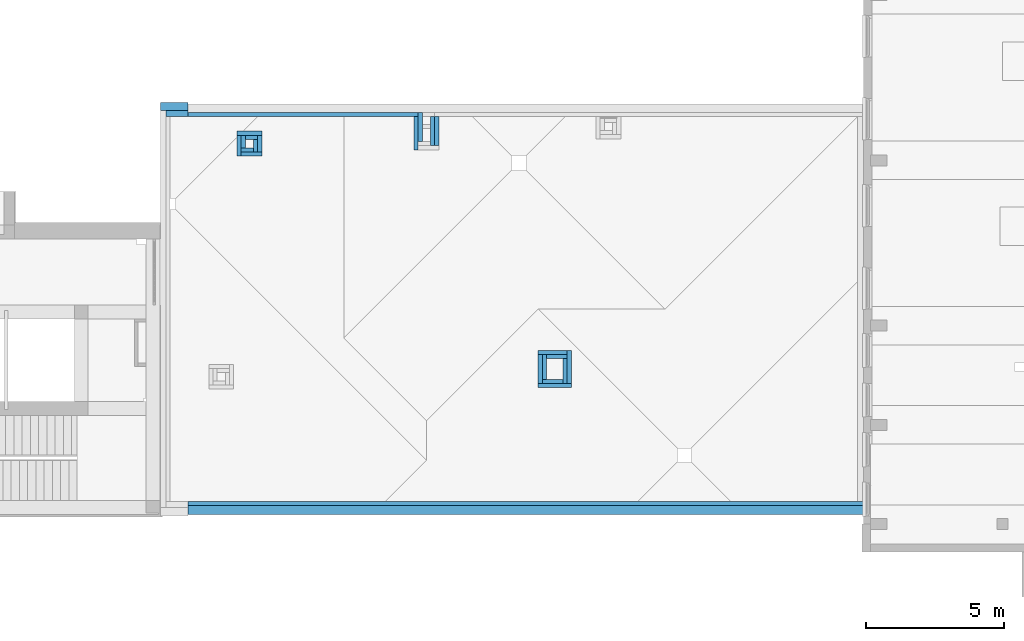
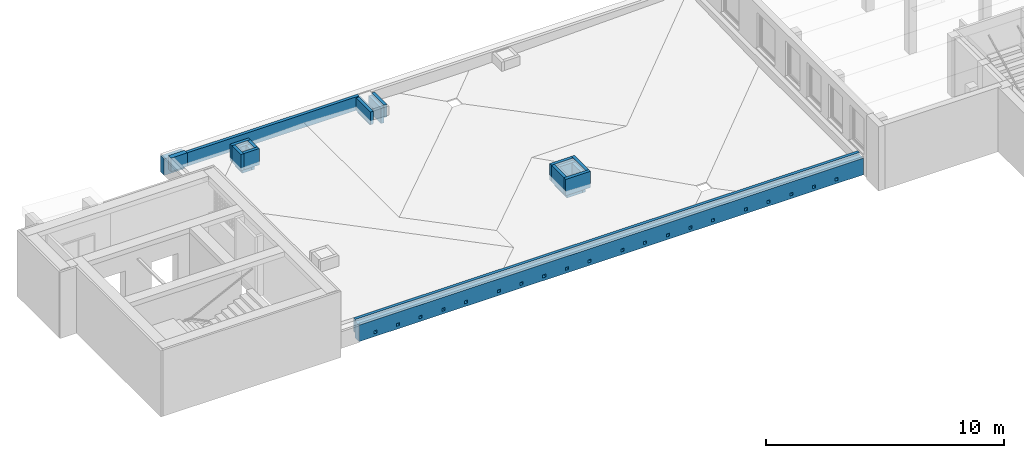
# One storey, part 5 of 27: 25 walls, 20 openings.
"""IFC4 building model written with IfcOpenShell, lengths in metres."""

from ifc_helpers import new_model, entity, si_unit, converted_unit, derived_unit, frame, frame_2d, origin, origin_with_axes, place, context, subcontext, project, spatial, polyline, rectangle, outline, extrude, material, layer, layer_set, layer_usage, element, save


model = new_model("IFC4")

# Units and contexts
model_context = context("Model", 3, precision=1e-05, world=origin())
body_context = subcontext(model_context, "Body", "Model", "MODEL_VIEW")
ifc_project = project(units=[si_unit("LENGTHUNIT", "METRE"), si_unit("AREAUNIT", "SQUARE_METRE"), si_unit("VOLUMEUNIT", "CUBIC_METRE"), si_unit("MASSUNIT", "GRAM", prefix="KILO"), converted_unit("PLANEANGLEUNIT", "DEGREE", entity("IfcPlaneAngleMeasure", 0.0174532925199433), si_unit("PLANEANGLEUNIT", "RADIAN"), dimensions=[0, 0, 0, 0, 0, 0, 0]), derived_unit("THERMALTRANSMITTANCEUNIT", [(si_unit("POWERUNIT", "WATT"), 1), (si_unit("THERMODYNAMICTEMPERATUREUNIT", "KELVIN"), -1), (si_unit("LENGTHUNIT", "METRE"), -2)]), derived_unit("VOLUMETRICFLOWRATEUNIT", [(si_unit("LENGTHUNIT", "METRE"), 3), (converted_unit("TIMEUNIT", "hour", entity("IfcTimeMeasure", 3600.0), si_unit("TIMEUNIT", "SECOND"), dimensions=[0, 0, 1, 0, 0, 0, 0]), -1), (si_unit("LENGTHUNIT", "METRE"), -1)])], contexts=[model_context])

# Site, building, storey
site_placement = place(None, origin())
site = spatial("IfcSite", under=ifc_project, at=site_placement, Name="3. ASŘ", CompositionType="ELEMENT")
building_placement = place(site_placement, origin())
building = spatial("IfcBuilding", under=site, at=building_placement, Name="Pavilon C", CompositionType="ELEMENT")
storey_placement = place(building_placement, frame((0.0, 0.0, 7.2)))
storey = spatial("IfcBuildingStorey", under=building, at=storey_placement, Name="Půdorys 3.NP", CompositionType="ELEMENT", Elevation=7.2)

# Walls
ifc_material_1 = material(Name="ZDIVO")
ifc_layer_1 = layer(ifc_material_1, 0.150000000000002)
ifc_layer_set_1 = layer_set([ifc_layer_1])
ifc_layer_usage_1 = layer_usage(ifc_layer_set_1, "AXIS2", "POSITIVE", 0.0)
wall_1_placement = place(storey_placement, frame((2.07500000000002, 13.955, -0.1)))
element("IfcWall", 1, at=wall_1_placement, inside=storey, material=ifc_layer_usage_1, Name="ZDIVO Z CDm", context=body_context, shape_type="SweptSolid", body=[
    extrude(rectangle(XDim=0.450000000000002, YDim=0.150000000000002, at=frame_2d((0.225000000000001, 0.0750000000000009), x_axis=(1.0, 0.0))), origin_with_axes(), (0.0, 0.0, 1.0), 1.0),
])
ifc_material_2 = material(Name="ZDIVO")
ifc_layer_2 = layer(ifc_material_2, 0.150000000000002)
ifc_layer_set_2 = layer_set([ifc_layer_2])
ifc_layer_usage_2 = layer_usage(ifc_layer_set_2, "AXIS2", "POSITIVE", 0.0)
wall_2_placement = place(storey_placement, frame((2.07500000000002, 13.655, -0.1), z_axis=(0.0, 0.0, 1.0), x_axis=(0.0, 1.0, 0.0)))
element("IfcWall", 2, at=wall_2_placement, inside=storey, material=ifc_layer_usage_2, Name="ZDIVO Z CDm", context=body_context, shape_type="SweptSolid", body=[
    extrude(rectangle(XDim=0.450000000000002, YDim=0.150000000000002, at=frame_2d((0.225000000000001, 0.0750000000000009), x_axis=(1.0, 0.0))), origin_with_axes(), (0.0, 0.0, 1.0), 1.0),
])
ifc_material_3 = material(Name="ZDIVO")
ifc_layer_3 = layer(ifc_material_3, 0.150000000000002)
ifc_layer_set_3 = layer_set([ifc_layer_3])
ifc_layer_usage_3 = layer_usage(ifc_layer_set_3, "AXIS2", "POSITIVE", 0.0)
wall_3_placement = place(storey_placement, frame((2.37500000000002, 13.655, -0.1), z_axis=(0.0, 0.0, 1.0), x_axis=(-1.0, 0.0, 0.0)))
element("IfcWall", 3, at=wall_3_placement, inside=storey, material=ifc_layer_usage_3, Name="ZDIVO Z CDm", context=body_context, shape_type="SweptSolid", body=[
    extrude(rectangle(XDim=0.450000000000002, YDim=0.150000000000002, at=frame_2d((0.225000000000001, 0.0750000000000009), x_axis=(1.0, 0.0))), origin_with_axes(), (0.0, 0.0, 1.0), 1.0),
])
ifc_material_4 = material(Name="ZDIVO")
ifc_layer_4 = layer(ifc_material_4, 0.150000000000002)
ifc_layer_set_4 = layer_set([ifc_layer_4])
ifc_layer_usage_4 = layer_usage(ifc_layer_set_4, "AXIS2", "POSITIVE", 0.0)
wall_4_placement = place(storey_placement, frame((2.37500000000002, 13.955, -0.1), z_axis=(0.0, 0.0, 1.0), x_axis=(0.0, -1.0, 0.0)))
element("IfcWall", 4, at=wall_4_placement, inside=storey, material=ifc_layer_usage_4, Name="ZDIVO Z CDm", context=body_context, shape_type="SweptSolid", body=[
    extrude(rectangle(XDim=0.450000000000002, YDim=0.150000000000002, at=frame_2d((0.225000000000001, 0.0750000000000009), x_axis=(1.0, 0.0))), origin_with_axes(), (0.0, 0.0, 1.0), 1.0),
])
ifc_material_5 = material(Name="ZDIVO")
ifc_layer_5 = layer(ifc_material_5, 0.150000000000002)
ifc_layer_set_5 = layer_set([ifc_layer_5])
ifc_layer_usage_5 = layer_usage(ifc_layer_set_5, "AXIS2", "POSITIVE", 0.0)
wall_5_placement = place(storey_placement, frame((13.0, 6.0, -0.1)))
element("IfcWall", 5, at=wall_5_placement, inside=storey, material=ifc_layer_usage_5, Name="ZDIVO Z CDm", context=body_context, shape_type="SweptSolid", body=[
    extrude(rectangle(XDim=0.750000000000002, YDim=0.150000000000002, at=frame_2d((0.375000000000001, 0.0750000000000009), x_axis=(1.0, 0.0))), origin_with_axes(), (0.0, 0.0, 1.0), 1.0),
])
ifc_material_6 = material(Name="ZDIVO")
ifc_layer_6 = layer(ifc_material_6, 0.150000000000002)
ifc_layer_set_6 = layer_set([ifc_layer_6])
ifc_layer_usage_6 = layer_usage(ifc_layer_set_6, "AXIS2", "POSITIVE", 0.0)
wall_6_placement = place(storey_placement, frame((8.79500000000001, 14.78, -0.1), z_axis=(0.0, 0.0, 1.0), x_axis=(0.0, -1.0, 0.0)))
element("IfcWall", 6, at=wall_6_placement, inside=storey, material=ifc_layer_usage_6, Name="ZDIVO Z CDm", context=body_context, shape_type="SweptSolid", body=[
    extrude(rectangle(XDim=1.05, YDim=0.150000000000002, at=frame_2d((0.524999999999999, 0.0750000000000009), x_axis=(1.0, 0.0))), origin_with_axes(), (0.0, 0.0, 1.0), 0.8),
])
ifc_material_7 = material(Name="ZDIVO")
ifc_layer_7 = layer(ifc_material_7, 0.150000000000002)
ifc_layer_set_7 = layer_set([ifc_layer_7])
ifc_layer_usage_7 = layer_usage(ifc_layer_set_7, "AXIS2", "POSITIVE", 0.0)
wall_7_placement = place(storey_placement, frame((13.6, 6.0, -0.1), z_axis=(0.0, 0.0, 1.0), x_axis=(0.0, -1.0, 0.0)))
element("IfcWall", 7, at=wall_7_placement, inside=storey, material=ifc_layer_usage_7, Name="ZDIVO Z CDm", context=body_context, shape_type="SweptSolid", body=[
    extrude(rectangle(XDim=0.900000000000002, YDim=0.150000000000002, at=frame_2d((0.450000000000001, 0.0750000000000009), x_axis=(1.0, 0.0))), origin_with_axes(), (0.0, 0.0, 1.0), 1.0),
])
ifc_material_8 = material(Name="ZDIVO")
ifc_layer_8 = layer(ifc_material_8, 0.150000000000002)
ifc_layer_set_8 = layer_set([ifc_layer_8])
ifc_layer_usage_8 = layer_usage(ifc_layer_set_8, "AXIS2", "POSITIVE", 0.0)
wall_8_placement = place(storey_placement, frame((13.6, 5.25, -0.1), z_axis=(0.0, 0.0, 1.0), x_axis=(-1.0, 0.0, 0.0)))
element("IfcWall", 8, at=wall_8_placement, inside=storey, material=ifc_layer_usage_8, Name="ZDIVO Z CDm", context=body_context, shape_type="SweptSolid", body=[
    extrude(rectangle(XDim=0.750000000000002, YDim=0.150000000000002, at=frame_2d((0.375000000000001, 0.0750000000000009), x_axis=(1.0, 0.0))), origin_with_axes(), (0.0, 0.0, 1.0), 1.0),
])
ifc_material_9 = material(Name="ZDIVO")
ifc_layer_9 = layer(ifc_material_9, 0.150000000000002)
ifc_layer_set_9 = layer_set([ifc_layer_9])
ifc_layer_usage_9 = layer_usage(ifc_layer_set_9, "AXIS2", "POSITIVE", 0.0)
wall_9_placement = place(storey_placement, frame((13.0, 5.25, -0.1), z_axis=(0.0, 0.0, 1.0), x_axis=(0.0, 1.0, 0.0)))
element("IfcWall", 9, at=wall_9_placement, inside=storey, material=ifc_layer_usage_9, Name="ZDIVO Z CDm", context=body_context, shape_type="SweptSolid", body=[
    extrude(rectangle(XDim=0.900000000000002, YDim=0.150000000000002, at=frame_2d((0.450000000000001, 0.0750000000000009), x_axis=(1.0, 0.0))), origin_with_axes(), (0.0, 0.0, 1.0), 1.0),
])
ifc_material_10 = material(Name="ZELEZOBETONOVÁ KCE")
ifc_layer_10 = layer(ifc_material_10, 0.3)
ifc_layer_set_10 = layer_set([ifc_layer_10])
ifc_layer_usage_10 = layer_usage(ifc_layer_set_10, "AXIS2", "POSITIVE", 0.0)
wall_10_placement = place(storey_placement, frame((4.09391348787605e-15, 15.3, -0.1), z_axis=(0.0, 0.0, 1.0), x_axis=(-1.0, 0.0, 0.0)))
element("IfcWall", 10, at=wall_10_placement, inside=storey, material=ifc_layer_usage_10, Name="ZELEZOBETONOVÁ KCE", context=body_context, shape_type="SweptSolid", body=[
    extrude(rectangle(XDim=1.0, YDim=0.3, at=frame_2d((0.500000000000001, 0.15), x_axis=(1.0, 0.0))), origin_with_axes(), (0.0, 0.0, 1.0), 0.85),
])

# Wall, openings
ifc_material_11 = material(Name="ZELEZOBETONOVÁ KCE")
ifc_layer_11 = layer(ifc_material_11, 0.32)
ifc_layer_set_11 = layer_set([ifc_layer_11])
ifc_layer_usage_11 = layer_usage(ifc_layer_set_11, "AXIS2", "POSITIVE", 0.0)
wall_11_placement = place(storey_placement, frame((4.11291076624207e-15, 0.350000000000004, -0.1)))
wall_11 = element("IfcWall", 11, at=wall_11_placement, inside=storey, material=ifc_layer_usage_11, Name="ZELEZOBETONOVÁ KCE", context=body_context, shape_type="SweptSolid", body=[
    extrude(rectangle(XDim=24.5, YDim=0.32, at=frame_2d((12.25, 0.16), x_axis=(1.0, 0.0))), origin_with_axes(), (0.0, 0.0, 1.0), 0.85),
])
opening_1_placement = place(wall_11_placement, frame((0.724999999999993, 0.0, 0.15), z_axis=(0.0, 1.0, 0.0), x_axis=(0.0, 0.0, 1.0)))
element("IfcOpeningElement", 12, at=opening_1_placement, cuts=wall_11, Name="Prostup stěnou", ObjectType="Opening", context=body_context, shape_type="SweptSolid", body=[
    extrude(outline(polyline([(0.0, 0.15), (0.15, 0.15), (0.15, 0.0), (0.0, 0.0), (0.0, 0.15)])), origin_with_axes(), (0.0, 0.0, 1.0), 0.32),
])
opening_2_placement = place(wall_11_placement, frame((1.82499999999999, 0.0, 0.15), z_axis=(0.0, 1.0, 0.0), x_axis=(0.0, 0.0, 1.0)))
element("IfcOpeningElement", 13, at=opening_2_placement, cuts=wall_11, Name="Prostup stěnou", ObjectType="Opening", context=body_context, shape_type="SweptSolid", body=[
    extrude(outline(polyline([(0.0, 0.15), (0.15, 0.15), (0.15, 0.0), (0.0, 0.0), (0.0, 0.15)])), origin_with_axes(), (0.0, 0.0, 1.0), 0.32),
])
opening_3_placement = place(wall_11_placement, frame((2.92499999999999, 0.0, 0.15), z_axis=(0.0, 1.0, 0.0), x_axis=(0.0, 0.0, 1.0)))
element("IfcOpeningElement", 14, at=opening_3_placement, cuts=wall_11, Name="Prostup stěnou", ObjectType="Opening", context=body_context, shape_type="SweptSolid", body=[
    extrude(outline(polyline([(0.0, 0.15), (0.15, 0.15), (0.15, 0.0), (0.0, 0.0), (0.0, 0.15)])), origin_with_axes(), (0.0, 0.0, 1.0), 0.32),
])
opening_4_placement = place(wall_11_placement, frame((4.02499999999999, 0.0, 0.15), z_axis=(0.0, 1.0, 0.0), x_axis=(0.0, 0.0, 1.0)))
element("IfcOpeningElement", 15, at=opening_4_placement, cuts=wall_11, Name="Prostup stěnou", ObjectType="Opening", context=body_context, shape_type="SweptSolid", body=[
    extrude(outline(polyline([(0.0, 0.15), (0.15, 0.15), (0.15, 0.0), (0.0, 0.0), (0.0, 0.15)])), origin_with_axes(), (0.0, 0.0, 1.0), 0.32),
])
opening_5_placement = place(wall_11_placement, frame((5.12499999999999, 0.0, 0.15), z_axis=(0.0, 1.0, 0.0), x_axis=(0.0, 0.0, 1.0)))
element("IfcOpeningElement", 16, at=opening_5_placement, cuts=wall_11, Name="Prostup stěnou", ObjectType="Opening", context=body_context, shape_type="SweptSolid", body=[
    extrude(outline(polyline([(0.0, 0.15), (0.15, 0.15), (0.15, 0.0), (0.0, 0.0), (0.0, 0.15)])), origin_with_axes(), (0.0, 0.0, 1.0), 0.32),
])
opening_6_placement = place(wall_11_placement, frame((11.125, 0.0, 0.15), z_axis=(0.0, 1.0, 0.0), x_axis=(0.0, 0.0, 1.0)))
element("IfcOpeningElement", 17, at=opening_6_placement, cuts=wall_11, Name="Prostup stěnou", ObjectType="Opening", context=body_context, shape_type="SweptSolid", body=[
    extrude(outline(polyline([(0.0, 0.15), (0.15, 0.15), (0.15, 0.0), (0.0, 0.0), (0.0, 0.15)])), origin_with_axes(), (0.0, 0.0, 1.0), 0.32),
])
opening_7_placement = place(wall_11_placement, frame((10.025, 0.0, 0.15), z_axis=(0.0, 1.0, 0.0), x_axis=(0.0, 0.0, 1.0)))
element("IfcOpeningElement", 18, at=opening_7_placement, cuts=wall_11, Name="Prostup stěnou", ObjectType="Opening", context=body_context, shape_type="SweptSolid", body=[
    extrude(outline(polyline([(0.0, 0.15), (0.15, 0.15), (0.15, 0.0), (0.0, 0.0), (0.0, 0.15)])), origin_with_axes(), (0.0, 0.0, 1.0), 0.32),
])
opening_8_placement = place(wall_11_placement, frame((8.92499999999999, 0.0, 0.15), z_axis=(0.0, 1.0, 0.0), x_axis=(0.0, 0.0, 1.0)))
element("IfcOpeningElement", 19, at=opening_8_placement, cuts=wall_11, Name="Prostup stěnou", ObjectType="Opening", context=body_context, shape_type="SweptSolid", body=[
    extrude(outline(polyline([(0.0, 0.15), (0.15, 0.15), (0.15, 0.0), (0.0, 0.0), (0.0, 0.15)])), origin_with_axes(), (0.0, 0.0, 1.0), 0.32),
])
opening_9_placement = place(wall_11_placement, frame((7.82499999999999, 0.0, 0.15), z_axis=(0.0, 1.0, 0.0), x_axis=(0.0, 0.0, 1.0)))
element("IfcOpeningElement", 20, at=opening_9_placement, cuts=wall_11, Name="Prostup stěnou", ObjectType="Opening", context=body_context, shape_type="SweptSolid", body=[
    extrude(outline(polyline([(0.0, 0.15), (0.15, 0.15), (0.15, 0.0), (0.0, 0.0), (0.0, 0.15)])), origin_with_axes(), (0.0, 0.0, 1.0), 0.32),
])
opening_10_placement = place(wall_11_placement, frame((6.72499999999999, 0.0, 0.15), z_axis=(0.0, 1.0, 0.0), x_axis=(0.0, 0.0, 1.0)))
element("IfcOpeningElement", 21, at=opening_10_placement, cuts=wall_11, Name="Prostup stěnou", ObjectType="Opening", context=body_context, shape_type="SweptSolid", body=[
    extrude(outline(polyline([(0.0, 0.15), (0.15, 0.15), (0.15, 0.0), (0.0, 0.0), (0.0, 0.15)])), origin_with_axes(), (0.0, 0.0, 1.0), 0.32),
])
opening_11_placement = place(wall_11_placement, frame((12.725, 0.0, 0.15), z_axis=(0.0, 1.0, 0.0), x_axis=(0.0, 0.0, 1.0)))
element("IfcOpeningElement", 22, at=opening_11_placement, cuts=wall_11, Name="Prostup stěnou", ObjectType="Opening", context=body_context, shape_type="SweptSolid", body=[
    extrude(outline(polyline([(0.0, 0.15), (0.15, 0.15), (0.15, 0.0), (0.0, 0.0), (0.0, 0.15)])), origin_with_axes(), (0.0, 0.0, 1.0), 0.32),
])
opening_12_placement = place(wall_11_placement, frame((13.825, 0.0, 0.15), z_axis=(0.0, 1.0, 0.0), x_axis=(0.0, 0.0, 1.0)))
element("IfcOpeningElement", 23, at=opening_12_placement, cuts=wall_11, Name="Prostup stěnou", ObjectType="Opening", context=body_context, shape_type="SweptSolid", body=[
    extrude(outline(polyline([(0.0, 0.15), (0.15, 0.15), (0.15, 0.0), (0.0, 0.0), (0.0, 0.15)])), origin_with_axes(), (0.0, 0.0, 1.0), 0.32),
])
opening_13_placement = place(wall_11_placement, frame((14.925, 0.0, 0.15), z_axis=(0.0, 1.0, 0.0), x_axis=(0.0, 0.0, 1.0)))
element("IfcOpeningElement", 24, at=opening_13_placement, cuts=wall_11, Name="Prostup stěnou", ObjectType="Opening", context=body_context, shape_type="SweptSolid", body=[
    extrude(outline(polyline([(0.0, 0.15), (0.15, 0.15), (0.15, 0.0), (0.0, 0.0), (0.0, 0.15)])), origin_with_axes(), (0.0, 0.0, 1.0), 0.32),
])
opening_14_placement = place(wall_11_placement, frame((16.025, 0.0, 0.15), z_axis=(0.0, 1.0, 0.0), x_axis=(0.0, 0.0, 1.0)))
element("IfcOpeningElement", 25, at=opening_14_placement, cuts=wall_11, Name="Prostup stěnou", ObjectType="Opening", context=body_context, shape_type="SweptSolid", body=[
    extrude(outline(polyline([(0.0, 0.15), (0.15, 0.15), (0.15, 0.0), (0.0, 0.0), (0.0, 0.15)])), origin_with_axes(), (0.0, 0.0, 1.0), 0.32),
])
opening_15_placement = place(wall_11_placement, frame((17.125, 0.0, 0.15), z_axis=(0.0, 1.0, 0.0), x_axis=(0.0, 0.0, 1.0)))
element("IfcOpeningElement", 26, at=opening_15_placement, cuts=wall_11, Name="Prostup stěnou", ObjectType="Opening", context=body_context, shape_type="SweptSolid", body=[
    extrude(outline(polyline([(0.0, 0.15), (0.15, 0.15), (0.15, 0.0), (0.0, 0.0), (0.0, 0.15)])), origin_with_axes(), (0.0, 0.0, 1.0), 0.32),
])
opening_16_placement = place(wall_11_placement, frame((23.125, 0.0, 0.15), z_axis=(0.0, 1.0, 0.0), x_axis=(0.0, 0.0, 1.0)))
element("IfcOpeningElement", 27, at=opening_16_placement, cuts=wall_11, Name="Prostup stěnou", ObjectType="Opening", context=body_context, shape_type="SweptSolid", body=[
    extrude(outline(polyline([(0.0, 0.15), (0.15, 0.15), (0.15, 0.0), (0.0, 0.0), (0.0, 0.15)])), origin_with_axes(), (0.0, 0.0, 1.0), 0.32),
])
opening_17_placement = place(wall_11_placement, frame((22.025, 0.0, 0.15), z_axis=(0.0, 1.0, 0.0), x_axis=(0.0, 0.0, 1.0)))
element("IfcOpeningElement", 28, at=opening_17_placement, cuts=wall_11, Name="Prostup stěnou", ObjectType="Opening", context=body_context, shape_type="SweptSolid", body=[
    extrude(outline(polyline([(0.0, 0.15), (0.15, 0.15), (0.15, 0.0), (0.0, 0.0), (0.0, 0.15)])), origin_with_axes(), (0.0, 0.0, 1.0), 0.32),
])
opening_18_placement = place(wall_11_placement, frame((20.925, 0.0, 0.15), z_axis=(0.0, 1.0, 0.0), x_axis=(0.0, 0.0, 1.0)))
element("IfcOpeningElement", 29, at=opening_18_placement, cuts=wall_11, Name="Prostup stěnou", ObjectType="Opening", context=body_context, shape_type="SweptSolid", body=[
    extrude(outline(polyline([(0.0, 0.15), (0.15, 0.15), (0.15, 0.0), (0.0, 0.0), (0.0, 0.15)])), origin_with_axes(), (0.0, 0.0, 1.0), 0.32),
])
opening_19_placement = place(wall_11_placement, frame((19.825, 0.0, 0.15), z_axis=(0.0, 1.0, 0.0), x_axis=(0.0, 0.0, 1.0)))
element("IfcOpeningElement", 30, at=opening_19_placement, cuts=wall_11, Name="Prostup stěnou", ObjectType="Opening", context=body_context, shape_type="SweptSolid", body=[
    extrude(outline(polyline([(0.0, 0.15), (0.15, 0.15), (0.15, 0.0), (0.0, 0.0), (0.0, 0.15)])), origin_with_axes(), (0.0, 0.0, 1.0), 0.32),
])
opening_20_placement = place(wall_11_placement, frame((18.725, 0.0, 0.15), z_axis=(0.0, 1.0, 0.0), x_axis=(0.0, 0.0, 1.0)))
element("IfcOpeningElement", 31, at=opening_20_placement, cuts=wall_11, Name="Prostup stěnou", ObjectType="Opening", context=body_context, shape_type="SweptSolid", body=[
    extrude(outline(polyline([(0.0, 0.15), (0.15, 0.15), (0.15, 0.0), (0.0, 0.0), (0.0, 0.15)])), origin_with_axes(), (0.0, 0.0, 1.0), 0.32),
])

# Walls
ifc_material_12 = material(Name="ZDIVO")
ifc_layer_12 = layer(ifc_material_12, 0.150000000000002)
ifc_layer_set_12 = layer_set([ifc_layer_12])
ifc_layer_usage_12 = layer_usage(ifc_layer_set_12, "AXIS2", "POSITIVE", 0.0)
wall_12_placement = place(storey_placement, frame((8.49500000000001, 13.88, -0.1), z_axis=(0.0, 0.0, 1.0), x_axis=(0.0, 1.0, 0.0)))
element("IfcWall", 32, at=wall_12_placement, inside=storey, material=ifc_layer_usage_12, Name="ZDIVO Z CDm", context=body_context, shape_type="SweptSolid", body=[
    extrude(rectangle(XDim=1.05, YDim=0.150000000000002, at=frame_2d((0.524999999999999, 0.0750000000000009), x_axis=(1.0, 0.0))), origin_with_axes(), (0.0, 0.0, 1.0), 0.8),
])
ifc_material_13 = material(Name="MINERÁLNÍ VATA")
ifc_layer_13 = layer(ifc_material_13, 0.15)
ifc_layer_set_13 = layer_set([ifc_layer_13])
ifc_layer_usage_13 = layer_usage(ifc_layer_set_13, "AXIS2", "POSITIVE", 0.0)
wall_13_placement = place(storey_placement, frame((13.9, 5.1, 0.16), z_axis=(0.0, 0.0, 1.0), x_axis=(-1.0, 0.0, 0.0)))
element("IfcWall", 33, at=wall_13_placement, inside=storey, material=ifc_layer_usage_13, Name="MINERÁLNÍ VATA", context=body_context, shape_type="SweptSolid", body=[
    extrude(rectangle(XDim=1.2, YDim=0.15, at=frame_2d((0.600000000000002, 0.075), x_axis=(1.0, 0.0))), origin_with_axes(), (0.0, 0.0, 1.0), 0.84),
])
ifc_material_14 = material(Name="MINERÁLNÍ VATA")
ifc_layer_14 = layer(ifc_material_14, 0.15)
ifc_layer_set_14 = layer_set([ifc_layer_14])
ifc_layer_usage_14 = layer_usage(ifc_layer_set_14, "AXIS2", "POSITIVE", 0.0)
wall_14_placement = place(storey_placement, frame((13.75, 6.3, 0.16), z_axis=(0.0, 0.0, 1.0), x_axis=(0.0, -1.0, 0.0)))
element("IfcWall", 34, at=wall_14_placement, inside=storey, material=ifc_layer_usage_14, Name="MINERÁLNÍ VATA", context=body_context, shape_type="SweptSolid", body=[
    extrude(rectangle(XDim=1.2, YDim=0.15, at=frame_2d((0.600000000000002, 0.075), x_axis=(1.0, 0.0))), origin_with_axes(), (0.0, 0.0, 1.0), 0.84),
])
ifc_material_15 = material(Name="MINERÁLNÍ VATA")
ifc_layer_15 = layer(ifc_material_15, 0.15)
ifc_layer_set_15 = layer_set([ifc_layer_15])
ifc_layer_usage_15 = layer_usage(ifc_layer_set_15, "AXIS2", "POSITIVE", 0.0)
wall_15_placement = place(storey_placement, frame((12.7, 6.15, 0.16)))
element("IfcWall", 35, at=wall_15_placement, inside=storey, material=ifc_layer_usage_15, Name="MINERÁLNÍ VATA", context=body_context, shape_type="SweptSolid", body=[
    extrude(rectangle(XDim=1.05, YDim=0.15, at=frame_2d((0.525000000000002, 0.075), x_axis=(1.0, 0.0))), origin_with_axes(), (0.0, 0.0, 1.0), 0.84),
])
ifc_material_16 = material(Name="MINERÁLNÍ VATA")
ifc_layer_16 = layer(ifc_material_16, 0.15)
ifc_layer_set_16 = layer_set([ifc_layer_16])
ifc_layer_usage_16 = layer_usage(ifc_layer_set_16, "AXIS2", "POSITIVE", 0.0)
wall_16_placement = place(storey_placement, frame((4.23449334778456e-15, 0.670000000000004, 0.16)))
element("IfcWall", 36, at=wall_16_placement, inside=storey, material=ifc_layer_usage_16, Name="MINERÁLNÍ VATA", context=body_context, shape_type="SweptSolid", body=[
    extrude(rectangle(XDim=24.5, YDim=0.15, at=frame_2d((12.25, 0.075), x_axis=(1.0, 0.0))), origin_with_axes(), (0.0, 0.0, 1.0), 0.69),
])
ifc_material_17 = material(Name="MINERÁLNÍ VATA")
ifc_layer_17 = layer(ifc_material_17, 0.22)
ifc_layer_set_17 = layer_set([ifc_layer_17])
ifc_layer_usage_17 = layer_usage(ifc_layer_set_17, "AXIS2", "POSITIVE", 0.0)
wall_17_placement = place(storey_placement, frame((4.09391348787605e-15, 15.0, 0.16), z_axis=(0.0, 0.0, 1.0), x_axis=(-1.0, 0.0, 0.0)))
element("IfcWall", 37, at=wall_17_placement, inside=storey, material=ifc_layer_usage_17, Name="MINERÁLNÍ VATA", context=body_context, shape_type="SweptSolid", body=[
    extrude(rectangle(XDim=0.8, YDim=0.22, at=frame_2d((0.4, 0.11), x_axis=(1.0, 0.0))), origin_with_axes(), (0.0, 0.0, 1.0), 0.69),
])
ifc_material_18 = material(Name="MINERÁLNÍ VATA")
ifc_layer_18 = layer(ifc_material_18, 0.15)
ifc_layer_set_18 = layer_set([ifc_layer_18])
ifc_layer_usage_18 = layer_usage(ifc_layer_set_18, "AXIS2", "POSITIVE", 0.0)
wall_18_placement = place(storey_placement, frame((8.34500000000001, 14.93, 0.16), z_axis=(0.0, 0.0, 1.0), x_axis=(-1.0, 2.17973565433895e-16, 0.0)))
element("IfcWall", 38, at=wall_18_placement, inside=storey, material=ifc_layer_usage_18, Name="MINERÁLNÍ VATA", context=body_context, shape_type="SweptSolid", body=[
    extrude(rectangle(XDim=8.34500000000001, YDim=0.15, at=frame_2d((4.1725, 0.075), x_axis=(1.0, 0.0))), origin_with_axes(), (0.0, 0.0, 1.0), 0.69),
])
ifc_material_19 = material(Name="MINERÁLNÍ VATA")
ifc_layer_19 = layer(ifc_material_19, 0.15)
ifc_layer_set_19 = layer_set([ifc_layer_19])
ifc_layer_usage_19 = layer_usage(ifc_layer_set_19, "AXIS2", "POSITIVE", 0.0)
wall_19_placement = place(storey_placement, frame((1.77500000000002, 14.105, 0.16)))
element("IfcWall", 39, at=wall_19_placement, inside=storey, material=ifc_layer_usage_19, Name="MINERÁLNÍ VATA", context=body_context, shape_type="SweptSolid", body=[
    extrude(rectangle(XDim=0.900000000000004, YDim=0.15, at=frame_2d((0.450000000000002, 0.075), x_axis=(1.0, 0.0))), origin_with_axes(), (0.0, 0.0, 1.0), 0.84),
])
ifc_material_20 = material(Name="MINERÁLNÍ VATA")
ifc_layer_20 = layer(ifc_material_20, 0.15)
ifc_layer_set_20 = layer_set([ifc_layer_20])
ifc_layer_usage_20 = layer_usage(ifc_layer_set_20, "AXIS2", "POSITIVE", 0.0)
wall_20_placement = place(storey_placement, frame((1.92500000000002, 13.355, 0.16), z_axis=(0.0, 0.0, 1.0), x_axis=(0.0, 1.0, 0.0)))
element("IfcWall", 40, at=wall_20_placement, inside=storey, material=ifc_layer_usage_20, Name="MINERÁLNÍ VATA", context=body_context, shape_type="SweptSolid", body=[
    extrude(rectangle(XDim=0.750000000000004, YDim=0.15, at=frame_2d((0.375000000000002, 0.075), x_axis=(1.0, 0.0))), origin_with_axes(), (0.0, 0.0, 1.0), 0.84),
])
ifc_material_21 = material(Name="MINERÁLNÍ VATA")
ifc_layer_21 = layer(ifc_material_21, 0.15)
ifc_layer_set_21 = layer_set([ifc_layer_21])
ifc_layer_usage_21 = layer_usage(ifc_layer_set_21, "AXIS2", "POSITIVE", 0.0)
wall_21_placement = place(storey_placement, frame((2.67500000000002, 13.505, 0.16), z_axis=(0.0, 0.0, 1.0), x_axis=(-1.0, 0.0, 0.0)))
element("IfcWall", 41, at=wall_21_placement, inside=storey, material=ifc_layer_usage_21, Name="MINERÁLNÍ VATA", context=body_context, shape_type="SweptSolid", body=[
    extrude(rectangle(XDim=0.750000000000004, YDim=0.15, at=frame_2d((0.375000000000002, 0.075), x_axis=(1.0, 0.0))), origin_with_axes(), (0.0, 0.0, 1.0), 0.84),
])
ifc_material_22 = material(Name="MINERÁLNÍ VATA")
ifc_layer_22 = layer(ifc_material_22, 0.15)
ifc_layer_set_22 = layer_set([ifc_layer_22])
ifc_layer_usage_22 = layer_usage(ifc_layer_set_22, "AXIS2", "POSITIVE", 0.0)
wall_22_placement = place(storey_placement, frame((2.52500000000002, 14.105, 0.16), z_axis=(0.0, 0.0, 1.0), x_axis=(0.0, -1.0, 0.0)))
element("IfcWall", 42, at=wall_22_placement, inside=storey, material=ifc_layer_usage_22, Name="MINERÁLNÍ VATA", context=body_context, shape_type="SweptSolid", body=[
    extrude(rectangle(XDim=0.600000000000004, YDim=0.15, at=frame_2d((0.300000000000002, 0.075), x_axis=(1.0, 0.0))), origin_with_axes(), (0.0, 0.0, 1.0), 0.84),
])
ifc_material_23 = material(Name="MINERÁLNÍ VATA")
ifc_layer_23 = layer(ifc_material_23, 0.15)
ifc_layer_set_23 = layer_set([ifc_layer_23])
ifc_layer_usage_23 = layer_usage(ifc_layer_set_23, "AXIS2", "POSITIVE", 0.0)
wall_23_placement = place(storey_placement, frame((8.34500000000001, 13.58, 0.16), z_axis=(0.0, 0.0, 1.0), x_axis=(0.0, 1.0, 0.0)))
element("IfcWall", 43, at=wall_23_placement, inside=storey, material=ifc_layer_usage_23, Name="MINERÁLNÍ VATA", context=body_context, shape_type="SweptSolid", body=[
    extrude(rectangle(XDim=1.2, YDim=0.15, at=frame_2d((0.6, 0.075), x_axis=(1.0, 0.0))), origin_with_axes(), (0.0, 0.0, 1.0), 0.64),
])
ifc_material_24 = material(Name="MINERÁLNÍ VATA")
ifc_layer_24 = layer(ifc_material_24, 0.15)
ifc_layer_set_24 = layer_set([ifc_layer_24])
ifc_layer_usage_24 = layer_usage(ifc_layer_set_24, "AXIS2", "POSITIVE", 0.0)
wall_24_placement = place(storey_placement, frame((8.94500000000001, 14.78, 0.16), z_axis=(0.0, 0.0, 1.0), x_axis=(0.0, -1.0, 0.0)))
element("IfcWall", 44, at=wall_24_placement, inside=storey, material=ifc_layer_usage_24, Name="MINERÁLNÍ VATA", context=body_context, shape_type="SweptSolid", body=[
    extrude(rectangle(XDim=1.05, YDim=0.15, at=frame_2d((0.525000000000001, 0.075), x_axis=(1.0, 0.0))), origin_with_axes(), (0.0, 0.0, 1.0), 0.64),
])
ifc_material_25 = material(Name="MINERÁLNÍ VATA")
ifc_layer_25 = layer(ifc_material_25, 0.15)
ifc_layer_set_25 = layer_set([ifc_layer_25])
ifc_layer_usage_25 = layer_usage(ifc_layer_set_25, "AXIS2", "POSITIVE", 0.0)
wall_25_placement = place(storey_placement, frame((12.85, 5.1, 0.16), z_axis=(0.0, 0.0, 1.0), x_axis=(0.0, 1.0, 0.0)))
element("IfcWall", 45, at=wall_25_placement, inside=storey, material=ifc_layer_usage_25, Name="MINERÁLNÍ VATA", context=body_context, shape_type="SweptSolid", body=[
    extrude(rectangle(XDim=1.05, YDim=0.15, at=frame_2d((0.525000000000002, 0.075), x_axis=(1.0, 0.0))), origin_with_axes(), (0.0, 0.0, 1.0), 0.84),
])

save(model, "model.ifc")
